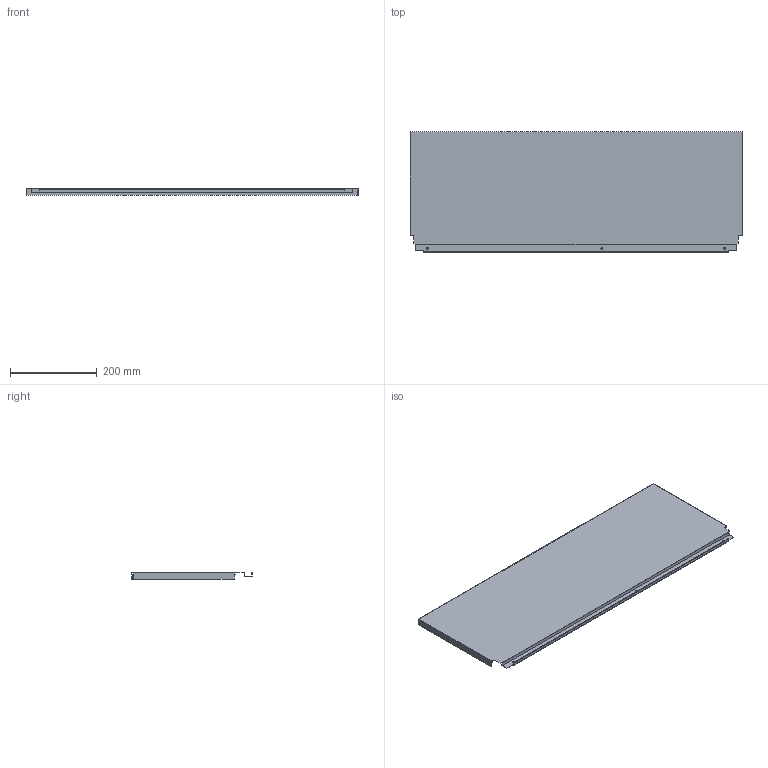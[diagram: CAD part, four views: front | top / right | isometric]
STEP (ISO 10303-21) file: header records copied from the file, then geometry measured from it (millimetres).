
FILE_DESCRIPTION (( 'STEP AP214' ), '1' );
FILE_NAME ('_DWD_XP Stahlrückwand_H278_KAB850_S16.step', '2010-07-08T13:03:49', ( 'grass' ), ( '' ), 'SwSTEP 2.0', 'SolidWorks 2010', '' );
FILE_SCHEMA (( 'AUTOMOTIVE_DESIGN' ));
Length unit declared in the file: millimetre
Products named in the file (1): _DWD_XP Stahlrückwand_H278_KAB850_S16
Bounding box: 767 x 278.57 x 16 mm (x, y, z)
Volume: 213203.1 mm3; surface area: 486460.1 mm2
Topology: 1 solids, 1 shells, 46 faces, 132 edges, 88 vertices
Faces by surface type: plane 40, cylinder 6
Entity records: 1534 total; most frequent: CARTESIAN_POINT 267, ORIENTED_EDGE 264, DIRECTION 238, EDGE_CURVE 132, LINE 120, VECTOR 120, VERTEX_POINT 88, AXIS2_PLACEMENT_3D 59
